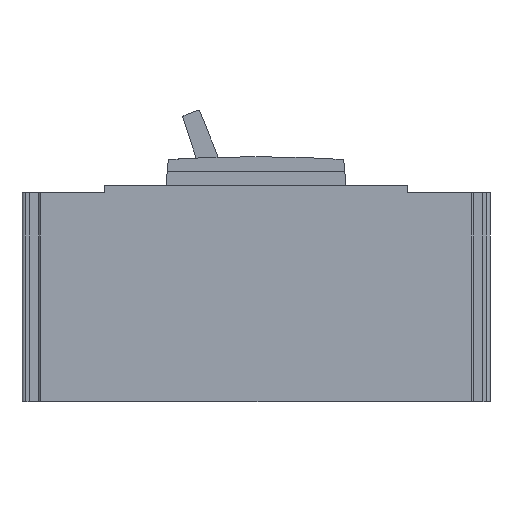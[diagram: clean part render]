
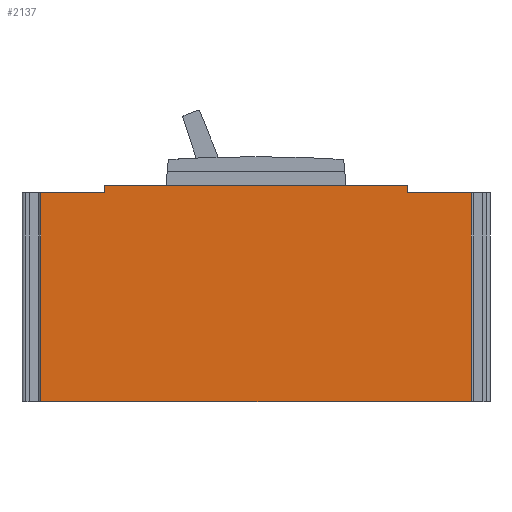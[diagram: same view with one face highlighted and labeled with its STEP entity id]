
A CAD part, left-side view. The second image highlights one B-rep face of the part: STEP entity #2137.
In plain terms, the highlighted planar face has unit normal (-1, 0, 0).
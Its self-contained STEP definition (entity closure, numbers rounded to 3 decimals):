
#172 = LINE ( 'NONE', #6434, #4149 ) ;
#248 = EDGE_CURVE ( 'NONE', #4135, #1860, #6541, .T. ) ;
#348 = LINE ( 'NONE', #1672, #5935 ) ;
#611 = CARTESIAN_POINT ( 'NONE',  ( -37.3, 59.8, 0. ) ) ;
#798 = VERTEX_POINT ( 'NONE', #2173 ) ;
#973 = ORIENTED_EDGE ( 'NONE', *, *, #3266, .F. ) ;
#1046 = CARTESIAN_POINT ( 'NONE',  ( -37.3, -42., 60. ) ) ;
#1055 = LINE ( 'NONE', #5143, #6625 ) ;
#1245 = VERTEX_POINT ( 'NONE', #611 ) ;
#1264 = EDGE_LOOP ( 'NONE', ( #3823, #5535, #5090, #7006, #1653, #5899, #5111, #6593, #973 ) ) ;
#1325 = VECTOR ( 'NONE', #2392, 1000. ) ;
#1360 = EDGE_CURVE ( 'NONE', #3152, #6305, #6562, .T. ) ;
#1485 = DIRECTION ( 'NONE',  ( 1., 0., 0. ) ) ;
#1560 = EDGE_CURVE ( 'NONE', #2070, #3152, #1918, .T. ) ;
#1640 = DIRECTION ( 'NONE',  ( 0., -1., 0. ) ) ;
#1653 = ORIENTED_EDGE ( 'NONE', *, *, #248, .F. ) ;
#1672 = CARTESIAN_POINT ( 'NONE',  ( -37.3, 0., 58. ) ) ;
#1860 = VERTEX_POINT ( 'NONE', #3379 ) ;
#1878 = VECTOR ( 'NONE', #6579, 1000. ) ;
#1918 = LINE ( 'NONE', #1992, #6479 ) ;
#1992 = CARTESIAN_POINT ( 'NONE',  ( -37.3, 42., 0. ) ) ;
#2037 = CARTESIAN_POINT ( 'NONE',  ( -37.3, 59.8, 80.91 ) ) ;
#2070 = VERTEX_POINT ( 'NONE', #6302 ) ;
#2117 = AXIS2_PLACEMENT_3D ( 'NONE', #6265, #1485, #6318 ) ;
#2137 = ADVANCED_FACE ( 'NONE', ( #5960 ), #3076, .F. ) ;
#2138 = CARTESIAN_POINT ( 'NONE',  ( -37.3, 42., 0. ) ) ;
#2173 = CARTESIAN_POINT ( 'NONE',  ( -37.3, -59.8, 0. ) ) ;
#2392 = DIRECTION ( 'NONE',  ( 0., -1., 0. ) ) ;
#2530 = CARTESIAN_POINT ( 'NONE',  ( -37.3, 42., 60. ) ) ;
#2653 = DIRECTION ( 'NONE',  ( 0., 0., 1. ) ) ;
#2948 = CARTESIAN_POINT ( 'NONE',  ( -37.3, -42., 58. ) ) ;
#2966 = LINE ( 'NONE', #4417, #1878 ) ;
#3076 = PLANE ( 'NONE',  #2117 ) ;
#3152 = VERTEX_POINT ( 'NONE', #2530 ) ;
#3171 = DIRECTION ( 'NONE',  ( 0., -1., 0. ) ) ;
#3266 = EDGE_CURVE ( 'NONE', #5462, #2070, #348, .T. ) ;
#3379 = CARTESIAN_POINT ( 'NONE',  ( -37.3, -59.8, 58. ) ) ;
#3452 = CARTESIAN_POINT ( 'NONE',  ( -37.3, 0., 60. ) ) ;
#3823 = ORIENTED_EDGE ( 'NONE', *, *, #4410, .T. ) ;
#3871 = CARTESIAN_POINT ( 'NONE',  ( -37.3, -59.8, 80.91 ) ) ;
#4027 = DIRECTION ( 'NONE',  ( 0., -1., 0. ) ) ;
#4135 = VERTEX_POINT ( 'NONE', #2948 ) ;
#4149 = VECTOR ( 'NONE', #3171, 1000. ) ;
#4178 = LINE ( 'NONE', #2037, #6697 ) ;
#4215 = VECTOR ( 'NONE', #4403, 1000. ) ;
#4403 = DIRECTION ( 'NONE',  ( 0., 0., -1. ) ) ;
#4410 = EDGE_CURVE ( 'NONE', #5462, #1245, #4178, .T. ) ;
#4417 = CARTESIAN_POINT ( 'NONE',  ( -37.3, -42., 0. ) ) ;
#4425 = DIRECTION ( 'NONE',  ( 0., -1., 0. ) ) ;
#4471 = CARTESIAN_POINT ( 'NONE',  ( -37.3, 0., 58. ) ) ;
#4515 = EDGE_CURVE ( 'NONE', #4871, #798, #1055, .T. ) ;
#4674 = CARTESIAN_POINT ( 'NONE',  ( -37.3, 59.8, 58. ) ) ;
#4871 = VERTEX_POINT ( 'NONE', #2138 ) ;
#4938 = VECTOR ( 'NONE', #4425, 1000. ) ;
#5090 = ORIENTED_EDGE ( 'NONE', *, *, #4515, .T. ) ;
#5111 = ORIENTED_EDGE ( 'NONE', *, *, #1360, .F. ) ;
#5143 = CARTESIAN_POINT ( 'NONE',  ( -37.3, 0., 0. ) ) ;
#5263 = EDGE_CURVE ( 'NONE', #6305, #4135, #2966, .T. ) ;
#5462 = VERTEX_POINT ( 'NONE', #4674 ) ;
#5535 = ORIENTED_EDGE ( 'NONE', *, *, #5694, .T. ) ;
#5694 = EDGE_CURVE ( 'NONE', #1245, #4871, #172, .T. ) ;
#5899 = ORIENTED_EDGE ( 'NONE', *, *, #5263, .F. ) ;
#5935 = VECTOR ( 'NONE', #1640, 1000. ) ;
#5960 = FACE_OUTER_BOUND ( 'NONE', #1264, .T. ) ;
#6265 = CARTESIAN_POINT ( 'NONE',  ( -37.3, 0., 80.91 ) ) ;
#6302 = CARTESIAN_POINT ( 'NONE',  ( -37.3, 42., 58. ) ) ;
#6305 = VERTEX_POINT ( 'NONE', #1046 ) ;
#6318 = DIRECTION ( 'NONE',  ( 0., 0., -1. ) ) ;
#6356 = DIRECTION ( 'NONE',  ( 0., 0., -1. ) ) ;
#6434 = CARTESIAN_POINT ( 'NONE',  ( -37.3, 0., 0. ) ) ;
#6479 = VECTOR ( 'NONE', #2653, 1000. ) ;
#6541 = LINE ( 'NONE', #4471, #4938 ) ;
#6562 = LINE ( 'NONE', #3452, #1325 ) ;
#6579 = DIRECTION ( 'NONE',  ( 0., 0., -1. ) ) ;
#6593 = ORIENTED_EDGE ( 'NONE', *, *, #1560, .F. ) ;
#6625 = VECTOR ( 'NONE', #4027, 1000. ) ;
#6697 = VECTOR ( 'NONE', #6356, 1000. ) ;
#6811 = EDGE_CURVE ( 'NONE', #1860, #798, #6920, .T. ) ;
#6920 = LINE ( 'NONE', #3871, #4215 ) ;
#7006 = ORIENTED_EDGE ( 'NONE', *, *, #6811, .F. ) ;
